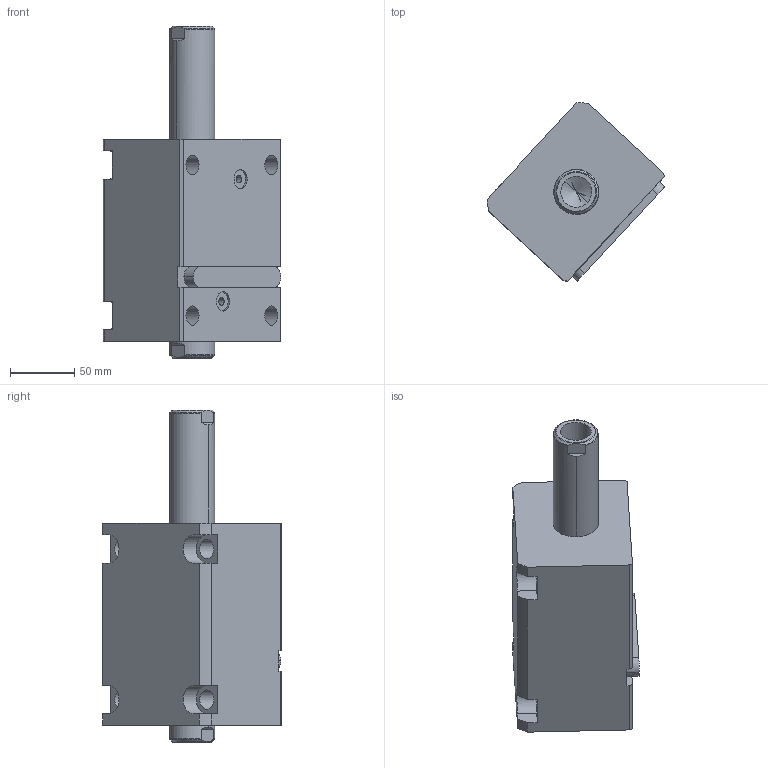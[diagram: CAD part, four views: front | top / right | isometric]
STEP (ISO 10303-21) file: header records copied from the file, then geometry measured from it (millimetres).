
FILE_DESCRIPTION (( 'STEP AP214' ), '1' );
FILE_NAME ('chtb-lwm63x75n_asm.STEP', '2018-05-22T02:20:35', ( 'Windows' ), ( 'Microsoft' ), 'SwSTEP 2.0', 'SolidWorks 2015', '' );
FILE_SCHEMA (( 'AUTOMOTIVE_DESIGN' ));
Length unit declared in the file: millimetre
Products named in the file (5): CHTB-SW63X75NHSG; CHTB-LWM63X75NBT; CHTB-LA63PJ; CHTB-63QG; chtb-lwm63x75n_asm
Assembly tree (4 placements, depth 2):
  chtb-lwm63x75n_asm
    CHTB-63QG
    CHTB-LA63PJ
    CHTB-LWM63X75NBT
    CHTB-SW63X75NHSG
Bounding box: 138.1 x 138.66 x 258 mm (x, y, z)
Volume: 1430049.6 mm3; surface area: 190986.4 mm2
Topology: 4 solids, 4 shells, 186 faces, 543 edges, 367 vertices
Faces by surface type: cylinder 103, plane 47, bspline 12, cone 12, torus 12
Entity records: 18665 total; most frequent: CARTESIAN_POINT 13839, ORIENTED_EDGE 1070, DIRECTION 834, EDGE_CURVE 535, VERTEX_POINT 367, AXIS2_PLACEMENT_3D 318, EDGE_LOOP 212, LINE 198
